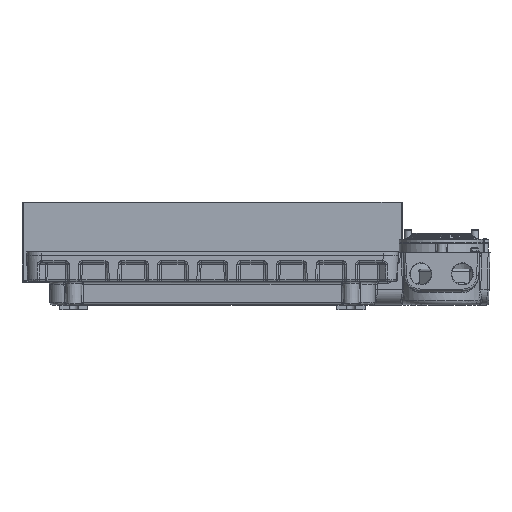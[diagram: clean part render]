
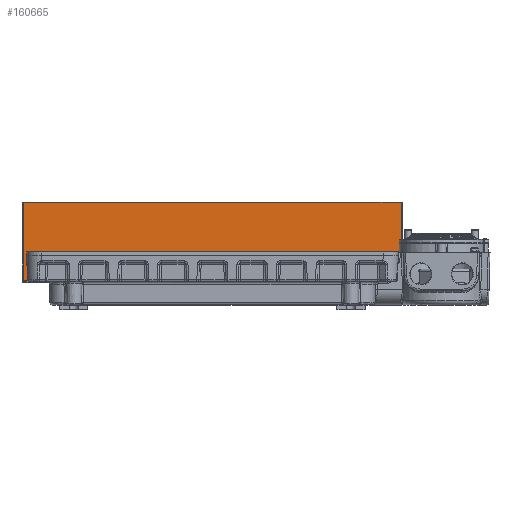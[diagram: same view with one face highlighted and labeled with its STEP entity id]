
A CAD part, front view. The second image highlights one B-rep face of the part: STEP entity #160665.
In plain terms, the highlighted planar face has unit normal (0, -1, 0).
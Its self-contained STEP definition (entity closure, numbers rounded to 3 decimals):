
#160295=CARTESIAN_POINT('',(-200.,103.25,-29.5));
#160296=VERTEX_POINT('',#160295);
#160321=CARTESIAN_POINT('',(200.,103.25,-29.5));
#160322=VERTEX_POINT('',#160321);
#160399=CARTESIAN_POINT('',(-200.,103.25,-29.5));
#160400=DIRECTION('',(1.0,0.0,0.0));
#160401=VECTOR('',#160400,400.0);
#160402=LINE('',#160399,#160401);
#160403=EDGE_CURVE('',#160296,#160322,#160402,.T.);
#160446=CARTESIAN_POINT('',(-200.,103.25,53.5));
#160447=VERTEX_POINT('',#160446);
#160490=CARTESIAN_POINT('',(-200.,103.25,53.5));
#160491=DIRECTION('',(0.0,0.0,-1.0));
#160492=VECTOR('',#160491,83.0);
#160493=LINE('',#160490,#160492);
#160494=EDGE_CURVE('',#160447,#160296,#160493,.T.);
#160561=CARTESIAN_POINT('',(200.,103.25,53.5));
#160562=VERTEX_POINT('',#160561);
#160610=CARTESIAN_POINT('',(200.,103.25,-29.5));
#160611=DIRECTION('',(0.0,0.0,1.0));
#160612=VECTOR('',#160611,83.0);
#160613=LINE('',#160610,#160612);
#160614=EDGE_CURVE('',#160322,#160562,#160613,.T.);
#160632=CARTESIAN_POINT('',(200.,103.25,53.5));
#160633=DIRECTION('',(-1.0,0.0,0.0));
#160634=VECTOR('',#160633,400.0);
#160635=LINE('',#160632,#160634);
#160636=EDGE_CURVE('',#160562,#160447,#160635,.T.);
#160654=CARTESIAN_POINT('',(0.,103.25,12.));
#160655=DIRECTION('',(0.0,1.0,0.0));
#160656=DIRECTION('',(1.0,0.0,0.0));
#160657=AXIS2_PLACEMENT_3D('',#160654,#160655,#160656);
#160658=PLANE('',#160657);
#160659=ORIENTED_EDGE('',*,*,#160403,.T.);
#160660=ORIENTED_EDGE('',*,*,#160614,.T.);
#160661=ORIENTED_EDGE('',*,*,#160636,.T.);
#160662=ORIENTED_EDGE('',*,*,#160494,.T.);
#160663=EDGE_LOOP('',(#160659,#160660,#160661,#160662));
#160664=FACE_OUTER_BOUND('',#160663,.T.);
#160665=ADVANCED_FACE('',(#160664),#160658,.F.);
